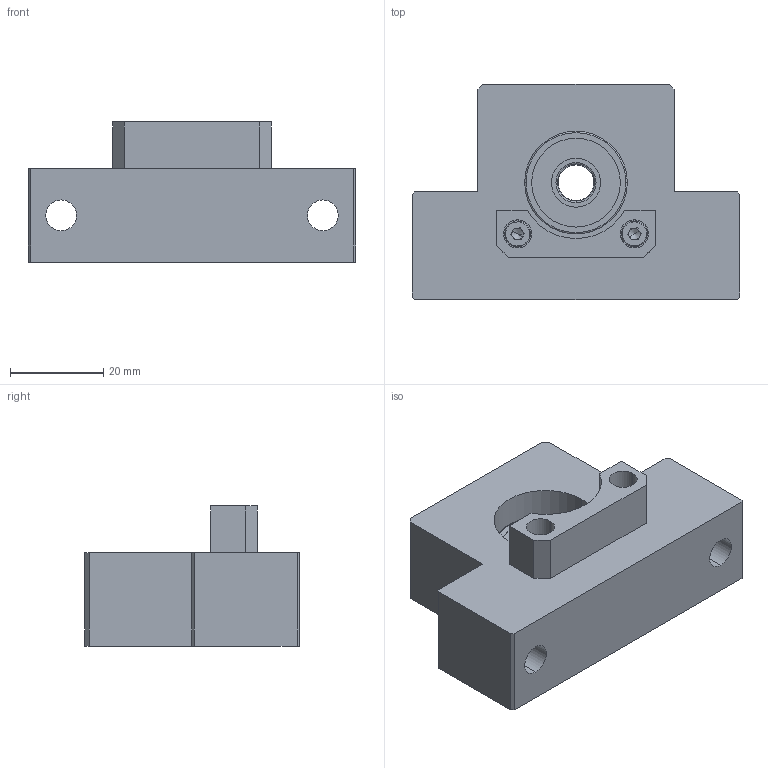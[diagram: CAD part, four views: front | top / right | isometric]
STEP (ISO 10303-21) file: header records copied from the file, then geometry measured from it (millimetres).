
FILE_DESCRIPTION (( 'STEP AP214' ), '1' );
FILE_NAME ('F-SBU-10-D.STEP', '2023-04-10T08:02:45', ( '' ), ( '' ), 'SwSTEP 2.0', 'SolidWorks 2021', '' );
FILE_SCHEMA (( 'AUTOMOTIVE_DESIGN' ));
Length unit declared in the file: millimetre
Products named in the file (11): F-SBU-10-D; 608ZZ Shield2; SBU-10-DAMPER; 608ZZ Inner Ring; 608ZZ; 3-8; 608ZZ Ball; 608ZZ Outer Ring; F-SBU-10-D BODY; STWN8; 608ZZ Shield1
Assembly tree (18 placements, depth 3):
  F-SBU-10-D
    F-SBU-10-D BODY
    STWN8
    608ZZ
      608ZZ Shield2
      608ZZ Ball  x8
      608ZZ Shield1
      608ZZ Inner Ring
      608ZZ Outer Ring
    SBU-10-DAMPER
    3-8  x2
Bounding box: 70 x 46 x 30 mm (x, y, z)
Volume: 46087.1 mm3; surface area: 16528.3 mm2
Topology: 17 solids, 17 shells, 201 faces, 479 edges, 300 vertices
Faces by surface type: plane 83, cylinder 64, cone 20, torus 18, sphere 16
Entity records: 5077 total; most frequent: DIRECTION 889, CARTESIAN_POINT 772, ORIENTED_EDGE 722, EDGE_CURVE 361, AXIS2_PLACEMENT_3D 346, VERTEX_POINT 229, LINE 197, VECTOR 197
